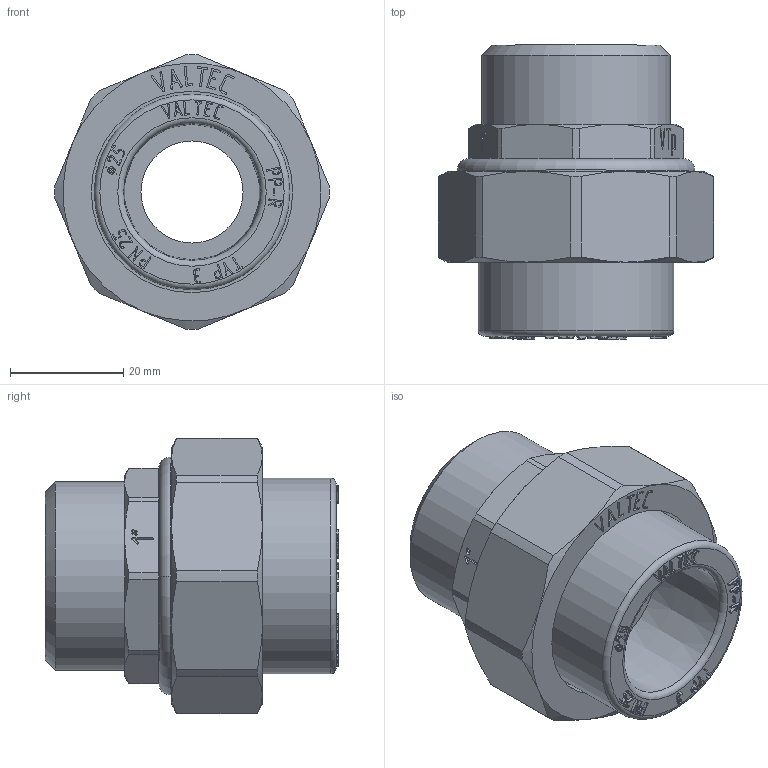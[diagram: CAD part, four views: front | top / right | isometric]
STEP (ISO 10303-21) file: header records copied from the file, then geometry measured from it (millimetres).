
FILE_DESCRIPTION(('STEP AP203'), '1');
FILE_NAME('VTp.761.0.02506', '', ('UNSPECIFIED'), ('UNSPECIFIED'), 'C3D Converter', 'C3D Toolkit', '');
FILE_SCHEMA(('CONFIG_CONTROL_DESIGN'));
Length unit declared in the file: millimetre
Products named in the file (1): ВР.302634.101.000 СБ
Bounding box: 48.5 x 51.8 x 48.5 mm (x, y, z)
Volume: 37130.6 mm3; surface area: 19851.9 mm2
Topology: 4 solids, 4 shells, 839 faces, 2313 edges, 1527 vertices
Faces by surface type: extrusion 453, plane 330, cylinder 29, cone 20, torus 7
Full cylindrical faces by diameter (mm): 18 x1, 23 x1, 25.5 x1, 27.5 x2, 33.249 x1, 33.5 x2, 34.5 x1, 35.5 x1, 38.5 x1, 38.953 x1, 41.9 x1
Entity records: 27764 total; most frequent: CARTESIAN_POINT 8227, ORIENTED_EDGE 4562, DIRECTION 2663, EDGE_CURVE 2281, VECTOR 1695, VERTEX_POINT 1524, B_SPLINE_CURVE_WITH_KNOTS 1395, LINE 1242
